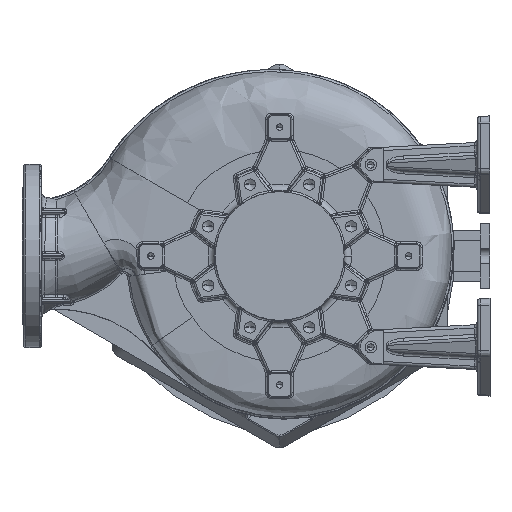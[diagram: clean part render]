
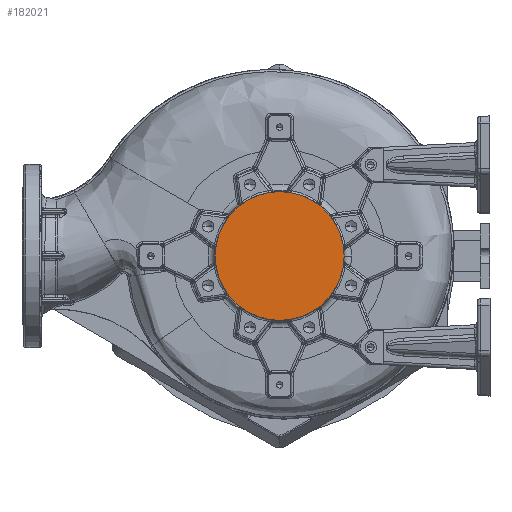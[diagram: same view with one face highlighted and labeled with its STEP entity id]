
A CAD part, left-side view. The second image highlights one B-rep face of the part: STEP entity #182021.
In plain terms, the highlighted planar face has unit normal (-1, 0, 0).
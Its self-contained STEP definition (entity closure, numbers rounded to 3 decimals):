
#3688 = CARTESIAN_POINT ( 'NONE',  ( -455.5, 0., 0. ) ) ;
#19694 = DIRECTION ( 'NONE',  ( 0., 0., -1. ) ) ;
#38478 = CARTESIAN_POINT ( 'NONE',  ( -455.5, 100., 0. ) ) ;
#50853 = FACE_OUTER_BOUND ( 'NONE', #160633, .T. ) ;
#66653 = EDGE_CURVE ( 'NONE', #169213, #84059, #195644, .T. ) ;
#67678 = CARTESIAN_POINT ( 'NONE',  ( -455.5, 0., 0. ) ) ;
#70378 = CIRCLE ( 'NONE', #169296, 100. ) ;
#74019 = ORIENTED_EDGE ( 'NONE', *, *, #66653, .F. ) ;
#82020 = DIRECTION ( 'NONE',  ( 1., 0., 0. ) ) ;
#83575 = DIRECTION ( 'NONE',  ( 0., -1., 0. ) ) ;
#84059 = VERTEX_POINT ( 'NONE', #38478 ) ;
#111509 = EDGE_CURVE ( 'NONE', #84059, #169213, #70378, .T. ) ;
#112226 = AXIS2_PLACEMENT_3D ( 'NONE', #3688, #114575, #19694 ) ;
#114575 = DIRECTION ( 'NONE',  ( -1., 0., 0. ) ) ;
#139128 = ORIENTED_EDGE ( 'NONE', *, *, #111509, .F. ) ;
#160633 = EDGE_LOOP ( 'NONE', ( #74019, #139128 ) ) ;
#161033 = PLANE ( 'NONE',  #112226 ) ;
#167734 = AXIS2_PLACEMENT_3D ( 'NONE', #67678, #178499, #83575 ) ;
#169213 = VERTEX_POINT ( 'NONE', #189189 ) ;
#169296 = AXIS2_PLACEMENT_3D ( 'NONE', #176973, #82020, #192819 ) ;
#176973 = CARTESIAN_POINT ( 'NONE',  ( -455.5, 0., 0. ) ) ;
#178499 = DIRECTION ( 'NONE',  ( 1., 0., 0. ) ) ;
#182021 = ADVANCED_FACE ( 'NONE', ( #50853 ), #161033, .T. ) ;
#189189 = CARTESIAN_POINT ( 'NONE',  ( -455.5, -100., 0. ) ) ;
#192819 = DIRECTION ( 'NONE',  ( 0., -1., 0. ) ) ;
#195644 = CIRCLE ( 'NONE', #167734, 100. ) ;
